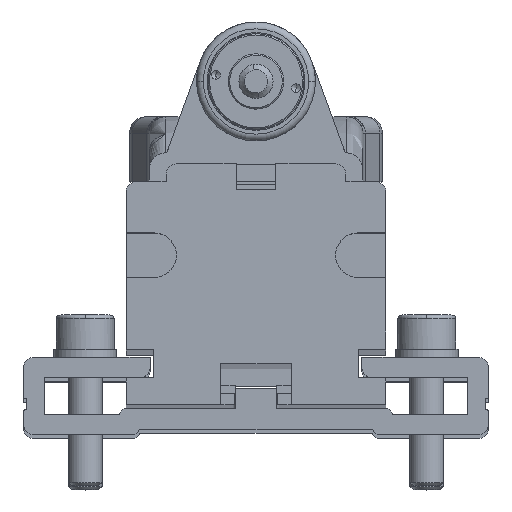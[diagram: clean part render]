
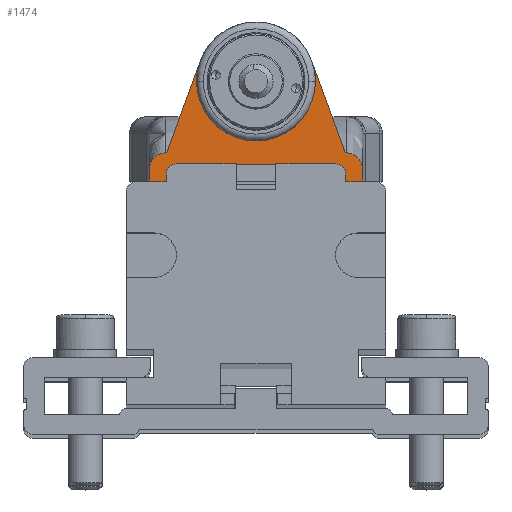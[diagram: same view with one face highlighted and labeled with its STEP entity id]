
A CAD part, top view. The second image highlights one B-rep face of the part: STEP entity #1474.
In plain terms, the highlighted planar face has unit normal (0, 0, 1).
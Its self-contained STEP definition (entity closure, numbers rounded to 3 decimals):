
#1474=ADVANCED_FACE('',(#3187),#3188,.T.);
#3187=FACE_OUTER_BOUND('',#5117,.T.);
#3188=PLANE('',#5118);
#5117=EDGE_LOOP('',(#11383,#11384,#11385,#11386,#11387,#11388,#11389,#11390,#11391,#11392,#11393,#11394,#11395,#11396,#11397,#11398,#11399,#11400,#11401,#11402,#11403,#11404));
#5118=AXIS2_PLACEMENT_3D('',#11405,#11406,#11407);
#11383=ORIENTED_EDGE('',*,*,#15018,.T.);
#11384=ORIENTED_EDGE('',*,*,#15019,.T.);
#11385=ORIENTED_EDGE('',*,*,#15020,.T.);
#11386=ORIENTED_EDGE('',*,*,#15021,.T.);
#11387=ORIENTED_EDGE('',*,*,#15022,.T.);
#11388=ORIENTED_EDGE('',*,*,#15023,.T.);
#11389=ORIENTED_EDGE('',*,*,#15024,.T.);
#11390=ORIENTED_EDGE('',*,*,#15025,.F.);
#11391=ORIENTED_EDGE('',*,*,#15026,.T.);
#11392=ORIENTED_EDGE('',*,*,#15027,.T.);
#11393=ORIENTED_EDGE('',*,*,#15028,.F.);
#11394=ORIENTED_EDGE('',*,*,#15029,.F.);
#11395=ORIENTED_EDGE('',*,*,#13420,.F.);
#11396=ORIENTED_EDGE('',*,*,#15030,.F.);
#11397=ORIENTED_EDGE('',*,*,#13433,.F.);
#11398=ORIENTED_EDGE('',*,*,#15031,.F.);
#11399=ORIENTED_EDGE('',*,*,#15032,.F.);
#11400=ORIENTED_EDGE('',*,*,#15033,.T.);
#11401=ORIENTED_EDGE('',*,*,#15034,.T.);
#11402=ORIENTED_EDGE('',*,*,#15035,.F.);
#11403=ORIENTED_EDGE('',*,*,#15036,.T.);
#11404=ORIENTED_EDGE('',*,*,#15037,.T.);
#11405=CARTESIAN_POINT('',(8.5,32.7,217.0));
#11406=DIRECTION('',(0.0,0.0,1.0));
#11407=DIRECTION('',(1.0,-0.0,0.0));
#13420=EDGE_CURVE('',#15818,#15821,#15822,.T.);
#13433=EDGE_CURVE('',#15845,#15847,#15848,.T.);
#15018=EDGE_CURVE('',#18222,#18223,#18224,.T.);
#15019=EDGE_CURVE('',#18223,#18225,#18226,.T.);
#15020=EDGE_CURVE('',#18225,#18227,#18228,.T.);
#15021=EDGE_CURVE('',#18227,#18229,#18230,.T.);
#15022=EDGE_CURVE('',#18229,#18231,#18232,.T.);
#15023=EDGE_CURVE('',#18231,#18233,#18234,.T.);
#15024=EDGE_CURVE('',#18233,#18235,#18236,.T.);
#15025=EDGE_CURVE('',#18237,#18235,#18238,.T.);
#15026=EDGE_CURVE('',#18237,#18239,#18240,.T.);
#15027=EDGE_CURVE('',#18239,#18241,#18242,.T.);
#15028=EDGE_CURVE('',#18243,#18241,#18244,.T.);
#15029=EDGE_CURVE('',#15821,#18243,#18245,.T.);
#15030=EDGE_CURVE('',#15847,#15818,#18246,.T.);
#15031=EDGE_CURVE('',#18247,#15845,#18248,.T.);
#15032=EDGE_CURVE('',#18249,#18247,#18250,.T.);
#15033=EDGE_CURVE('',#18249,#18251,#18252,.T.);
#15034=EDGE_CURVE('',#18251,#18253,#18254,.T.);
#15035=EDGE_CURVE('',#18255,#18253,#18256,.T.);
#15036=EDGE_CURVE('',#18255,#18257,#18258,.T.);
#15037=EDGE_CURVE('',#18257,#18222,#18259,.T.);
#15818=VERTEX_POINT('',#19313);
#15821=VERTEX_POINT('',#19317);
#15822=CIRCLE('',#19318,8.7);
#15845=VERTEX_POINT('',#19368);
#15847=VERTEX_POINT('',#19370);
#15848=CIRCLE('',#19371,8.7);
#18222=VERTEX_POINT('',#22762);
#18223=VERTEX_POINT('',#22763);
#18224=LINE('',#22764,#22765);
#18225=VERTEX_POINT('',#22766);
#18226=CIRCLE('',#22767,1.5);
#18227=VERTEX_POINT('',#22768);
#18228=LINE('',#22769,#22770);
#18229=VERTEX_POINT('',#22771);
#18230=CIRCLE('',#22772,1.5);
#18231=VERTEX_POINT('',#22773);
#18232=LINE('',#22774,#22775);
#18233=VERTEX_POINT('',#22776);
#18234=LINE('',#22777,#22778);
#18235=VERTEX_POINT('',#22779);
#18236=LINE('',#22780,#22781);
#18237=VERTEX_POINT('',#22782);
#18238=LINE('',#22783,#22784);
#18239=VERTEX_POINT('',#22785);
#18240=LINE('',#22786,#22787);
#18241=VERTEX_POINT('',#22788);
#18242=B_SPLINE_CURVE_WITH_KNOTS('',3,(#22789,#22790,#22791,#22792,#22793,#22794,#22795,#22796,#22797,#22798),.UNSPECIFIED.,.F.,.F.,(4,2,2,2,4),(1.12,1.22,1.315,1.406,1.492),.UNSPECIFIED.);
#18243=VERTEX_POINT('',#22799);
#18244=LINE('',#22800,#22801);
#18245=LINE('',#22802,#22803);
#18246=CIRCLE('',#22804,8.7);
#18247=VERTEX_POINT('',#22805);
#18248=LINE('',#22806,#22807);
#18249=VERTEX_POINT('',#22808);
#18250=LINE('',#22809,#22810);
#18251=VERTEX_POINT('',#22811);
#18252=B_SPLINE_CURVE_WITH_KNOTS('',3,(#22812,#22813,#22814,#22815,#22816,#22817,#22818,#22819,#22820,#22821),.UNSPECIFIED.,.F.,.F.,(4,2,2,2,4),(0.0,0.086,0.177,0.272,0.372),.UNSPECIFIED.);
#18253=VERTEX_POINT('',#22822);
#18254=LINE('',#22823,#22824);
#18255=VERTEX_POINT('',#22825);
#18256=LINE('',#22826,#22827);
#18257=VERTEX_POINT('',#22828);
#18258=LINE('',#22829,#22830);
#18259=LINE('',#22831,#22832);
#19313=CARTESIAN_POINT('',(27.7,47.3,217.0));
#19317=CARTESIAN_POINT('',(27.177,50.272,217.0));
#19318=AXIS2_PLACEMENT_3D('',#24687,#24688,#24689);
#19368=CARTESIAN_POINT('',(10.823,50.272,217.0));
#19370=CARTESIAN_POINT('',(10.3,47.3,217.0));
#19371=AXIS2_PLACEMENT_3D('',#24708,#24709,#24710);
#22762=CARTESIAN_POINT('',(5.85,32.7,217.0));
#22763=CARTESIAN_POINT('',(5.85,33.7,217.0));
#22764=CARTESIAN_POINT('',(5.85,32.7,217.0));
#22765=VECTOR('',#26703,1.0);
#22766=CARTESIAN_POINT('',(7.35,35.2,217.0));
#22767=AXIS2_PLACEMENT_3D('',#26704,#26705,#26706);
#22768=CARTESIAN_POINT('',(30.65,35.2,217.0));
#22769=CARTESIAN_POINT('',(7.35,35.2,217.0));
#22770=VECTOR('',#26707,23.3);
#22771=CARTESIAN_POINT('',(32.15,33.7,217.0));
#22772=AXIS2_PLACEMENT_3D('',#26708,#26709,#26710);
#22773=CARTESIAN_POINT('',(32.15,32.7,217.0));
#22774=CARTESIAN_POINT('',(32.15,33.7,217.0));
#22775=VECTOR('',#26711,1.0);
#22776=CARTESIAN_POINT('',(32.65,32.7,217.0));
#22777=CARTESIAN_POINT('',(32.15,32.7,217.0));
#22778=VECTOR('',#26712,0.5);
#22779=CARTESIAN_POINT('',(32.65,31.7,217.0));
#22780=CARTESIAN_POINT('',(32.65,32.7,217.0));
#22781=VECTOR('',#26713,1.0);
#22782=CARTESIAN_POINT('',(34.65,31.7,217.0));
#22783=CARTESIAN_POINT('',(34.65,31.7,217.0));
#22784=VECTOR('',#26714,2.0);
#22785=CARTESIAN_POINT('',(34.65,34.236,217.0));
#22786=CARTESIAN_POINT('',(34.65,31.7,217.0));
#22787=VECTOR('',#26715,2.536);
#22788=CARTESIAN_POINT('',(32.25,36.86,217.0));
#22789=CARTESIAN_POINT('',(34.65,34.236,217.0));
#22790=CARTESIAN_POINT('',(34.65,34.57,217.0));
#22791=CARTESIAN_POINT('',(34.577,34.965,217.0));
#22792=CARTESIAN_POINT('',(34.338,35.572,217.0));
#22793=CARTESIAN_POINT('',(34.136,35.895,217.0));
#22794=CARTESIAN_POINT('',(33.71,36.344,217.0));
#22795=CARTESIAN_POINT('',(33.416,36.554,217.0));
#22796=CARTESIAN_POINT('',(32.876,36.789,217.0));
#22797=CARTESIAN_POINT('',(32.538,36.86,217.0));
#22798=CARTESIAN_POINT('',(32.25,36.86,217.0));
#22799=CARTESIAN_POINT('',(32.052,36.86,217.0));
#22800=CARTESIAN_POINT('',(32.052,36.86,217.0));
#22801=VECTOR('',#26716,0.198);
#22802=CARTESIAN_POINT('',(27.177,50.272,217.0));
#22803=VECTOR('',#26717,14.271);
#22804=AXIS2_PLACEMENT_3D('',#26718,#26719,#26720);
#22805=CARTESIAN_POINT('',(5.948,36.86,217.0));
#22806=CARTESIAN_POINT('',(5.948,36.86,217.0));
#22807=VECTOR('',#26721,14.27);
#22808=CARTESIAN_POINT('',(5.75,36.86,217.0));
#22809=CARTESIAN_POINT('',(5.75,36.86,217.0));
#22810=VECTOR('',#26722,0.198);
#22811=CARTESIAN_POINT('',(3.35,34.236,217.0));
#22812=CARTESIAN_POINT('',(5.75,36.86,217.0));
#22813=CARTESIAN_POINT('',(5.462,36.86,217.0));
#22814=CARTESIAN_POINT('',(5.124,36.789,217.0));
#22815=CARTESIAN_POINT('',(4.584,36.554,217.0));
#22816=CARTESIAN_POINT('',(4.29,36.344,217.0));
#22817=CARTESIAN_POINT('',(3.864,35.895,217.0));
#22818=CARTESIAN_POINT('',(3.662,35.572,217.0));
#22819=CARTESIAN_POINT('',(3.423,34.965,217.0));
#22820=CARTESIAN_POINT('',(3.35,34.57,217.0));
#22821=CARTESIAN_POINT('',(3.35,34.236,217.0));
#22822=CARTESIAN_POINT('',(3.35,31.7,217.0));
#22823=CARTESIAN_POINT('',(3.35,34.236,217.0));
#22824=VECTOR('',#26723,2.536);
#22825=CARTESIAN_POINT('',(5.35,31.7,217.0));
#22826=CARTESIAN_POINT('',(5.35,31.7,217.0));
#22827=VECTOR('',#26724,2.0);
#22828=CARTESIAN_POINT('',(5.35,32.7,217.0));
#22829=CARTESIAN_POINT('',(5.35,31.7,217.0));
#22830=VECTOR('',#26725,1.0);
#22831=CARTESIAN_POINT('',(5.35,32.7,217.0));
#22832=VECTOR('',#26726,0.5);
#24687=CARTESIAN_POINT('',(19.,47.3,217.0));
#24688=DIRECTION('',(0.,0.,1.0));
#24689=DIRECTION('',(0.94,0.342,0.));
#24708=CARTESIAN_POINT('',(19.,47.3,217.0));
#24709=DIRECTION('',(0.,0.,1.0));
#24710=DIRECTION('',(0.94,0.342,0.));
#26703=DIRECTION('',(0.0,1.0,0.0));
#26704=CARTESIAN_POINT('',(7.35,33.7,217.0));
#26705=DIRECTION('',(0.0,0.0,-1.0));
#26706=DIRECTION('',(-1.0,0.0,0.0));
#26707=DIRECTION('',(1.0,0.0,0.0));
#26708=CARTESIAN_POINT('',(30.65,33.7,217.0));
#26709=DIRECTION('',(0.0,0.0,-1.0));
#26710=DIRECTION('',(1.0,0.0,0.0));
#26711=DIRECTION('',(0.0,-1.0,0.0));
#26712=DIRECTION('',(1.0,0.0,0.0));
#26713=DIRECTION('',(0.0,-1.0,0.0));
#26714=DIRECTION('',(-1.0,0.0,0.0));
#26715=DIRECTION('',(0.0,1.0,0.0));
#26716=DIRECTION('',(1.0,0.0,0.0));
#26717=DIRECTION('',(0.342,-0.94,0.));
#26718=CARTESIAN_POINT('',(19.,47.3,217.0));
#26719=DIRECTION('',(0.,0.,1.0));
#26720=DIRECTION('',(0.94,0.342,0.));
#26721=DIRECTION('',(0.342,0.94,0.0));
#26722=DIRECTION('',(1.0,0.0,0.0));
#26723=DIRECTION('',(0.0,-1.0,0.0));
#26724=DIRECTION('',(-1.0,0.0,0.0));
#26725=DIRECTION('',(0.0,1.0,0.0));
#26726=DIRECTION('',(1.0,0.0,0.0));
